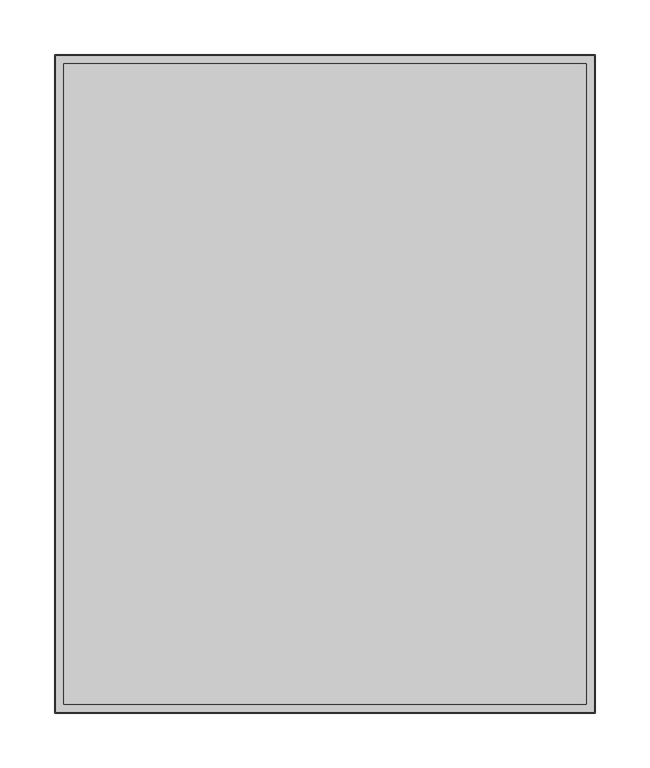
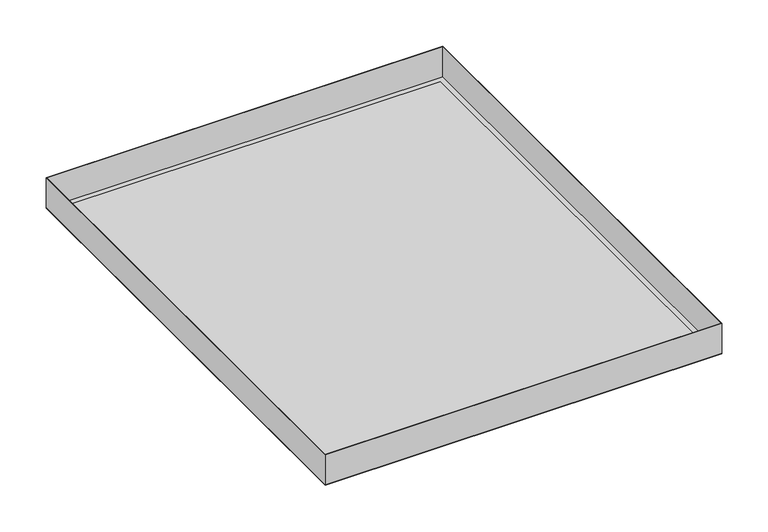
"""IFC4 building model written with IfcOpenShell, lengths in millimetres: proxy geometry, durlum_S7KS_panel : durlum_S7KS_panel_wall_length_cut."""

from ifc_helpers import new_model, si_unit, frame, origin, origin_with_axes, place, context, project, spatial, polyline, outline, extrude, source, transform, mapped, element, save


def generic_models_bfa937f8(model_context):
    return source(origin(), model_context, "Body", "SweptSolid", [
        extrude(outline(polyline([(246.0, 299.75), (246.0, -299.75), (-246.0, -299.75), (-246.0, 299.75), (246.0, 299.75)]), holes=[polyline([(245.4, 299.15), (-245.4, 299.15), (-245.4, -299.15), (245.4, -299.15), (245.4, 299.15)])]), frame((0.0, 0.0, 0.6), z_axis=(0.0, 0.0, 1.0), x_axis=(1.0, 0.0, 0.0)), (0.0, 0.0, 1.0), 39.4),
        extrude(outline(polyline([(238.0, 291.75), (238.0, -291.75), (-238.0, -291.75), (-238.0, 291.75), (238.0, 291.75)])), frame((0.0, 0.0, 0.6), z_axis=(0.0, 0.0, 1.0), x_axis=(1.0, 0.0, 0.0)), (0.0, 0.0, 1.0), 0.6),
        extrude(outline(polyline([(246.0, 299.75), (246.0, -299.75), (-246.0, -299.75), (-246.0, 299.75), (246.0, 299.75)]), holes=[polyline([(238.0, 291.75), (-238.0, 291.75), (-238.0, -291.75), (238.0, -291.75), (238.0, 291.75)])]), origin_with_axes(), (0.0, 0.0, 1.0), 0.6),
        extrude(outline(polyline([(238.0, 291.75), (238.0, -291.75), (-238.0, -291.75), (-238.0, 291.75), (238.0, 291.75)])), origin_with_axes(), (0.0, 0.0, 1.0), 0.6),
    ])


if __name__ == "__main__":
    model = new_model("IFC4")
    model_context = context("Model", 3, world=origin())
    ifc_project = project(units=[si_unit("LENGTHUNIT", "METRE", prefix="MILLI")], contexts=[model_context])
    site = spatial("IfcSite", under=ifc_project)
    building = spatial("IfcBuilding", under=site)
    placement = place(None, origin())
    generic_models_shape = generic_models_bfa937f8(model_context)
    element("IfcBuildingElementProxy", 1, Name="durlum_S7KS_panel : durlum_S7KS_panel_wall_length_cut", ObjectType="durlum_S7KS_panel : durlum_S7KS_panel_wall_length_cut", at=placement, inside=building, context=model_context, shape_type="MappedRepresentation", body=[
        mapped(generic_models_shape, transform((0.0, 0.0, 0.0), x_axis=(1.0, 0.0, 0.0), y_axis=(0.0, 1.0, 0.0), z_axis=(0.0, 0.0, 1.0))),
    ])
    save(model, "model.ifc")
